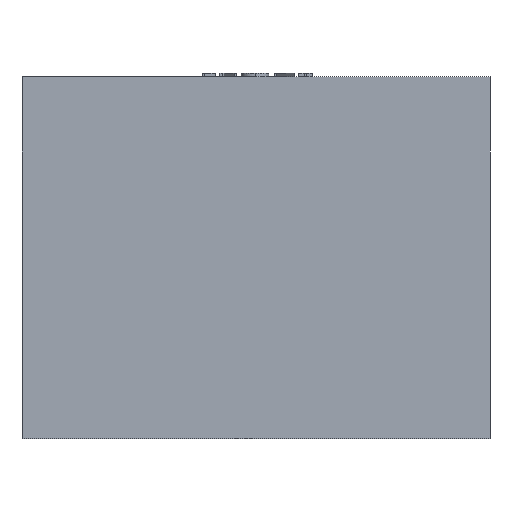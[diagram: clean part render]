
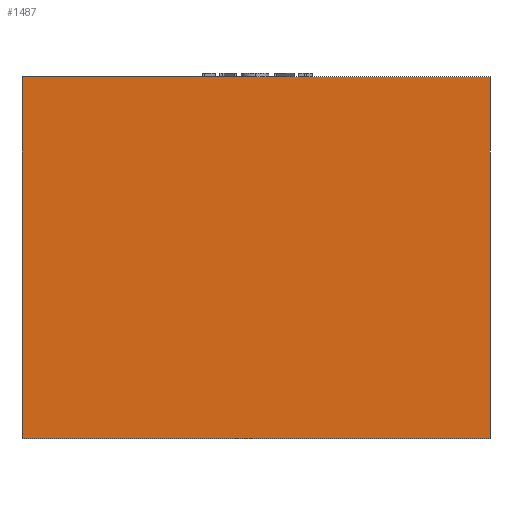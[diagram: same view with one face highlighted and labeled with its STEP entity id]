
A CAD part, front view. The second image highlights one B-rep face of the part: STEP entity #1487.
In plain terms, the highlighted planar face has unit normal (0, -1, 0).
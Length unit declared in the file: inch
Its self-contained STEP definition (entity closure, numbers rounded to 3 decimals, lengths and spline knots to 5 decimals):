
#1299 = VERTEX_POINT ( 'NONE', #5674 ) ;
#1300 = VERTEX_POINT ( 'NONE', #5673 ) ;
#1303 = EDGE_CURVE ( 'NONE', #1366, #1381, #5672, .T. ) ;
#1357 = EDGE_CURVE ( 'NONE', #1381, #1299, #5831, .T. ) ;
#1366 = VERTEX_POINT ( 'NONE', #5875 ) ;
#1381 = VERTEX_POINT ( 'NONE', #5902 ) ;
#1401 = EDGE_CURVE ( 'NONE', #1300, #1366, #5945, .T. ) ;
#1402 = EDGE_LOOP ( 'NONE', ( #1488, #1489, #1490, #1491 ) ) ;
#1412 = EDGE_CURVE ( 'NONE', #1299, #1300, #5976, .T. ) ;
#1487 = ADVANCED_FACE ( 'NONE', ( #6264 ), #6263, .F. ) ;
#1488 = ORIENTED_EDGE ( 'NONE', *, *, #1357, .F. ) ;
#1489 = ORIENTED_EDGE ( 'NONE', *, *, #1303, .F. ) ;
#1490 = ORIENTED_EDGE ( 'NONE', *, *, #1401, .F. ) ;
#1491 = ORIENTED_EDGE ( 'NONE', *, *, #1412, .F. ) ;
#5669 = DIRECTION ( 'NONE',  ( -1., 0., 0. ) ) ;
#5670 = VECTOR ( 'NONE', #5669, 39.37008 ) ;
#5671 = CARTESIAN_POINT ( 'NONE',  ( -6.61746, -1.3175, -5.11746 ) ) ;
#5672 = LINE ( 'NONE', #5671, #5670 ) ;
#5673 = CARTESIAN_POINT ( 'NONE',  ( 6.61746, -1.3175, 5.11746 ) ) ;
#5674 = CARTESIAN_POINT ( 'NONE',  ( -6.61746, -1.3175, 5.11746 ) ) ;
#5828 = DIRECTION ( 'NONE',  ( 0., 0., 1. ) ) ;
#5829 = VECTOR ( 'NONE', #5828, 39.37008 ) ;
#5830 = CARTESIAN_POINT ( 'NONE',  ( -6.61746, -1.3175, -5.11746 ) ) ;
#5831 = LINE ( 'NONE', #5830, #5829 ) ;
#5875 = CARTESIAN_POINT ( 'NONE',  ( 6.61746, -1.3175, -5.11746 ) ) ;
#5902 = CARTESIAN_POINT ( 'NONE',  ( -6.61746, -1.3175, -5.11746 ) ) ;
#5942 = DIRECTION ( 'NONE',  ( 0., 0., -1. ) ) ;
#5943 = VECTOR ( 'NONE', #5942, 39.37008 ) ;
#5944 = CARTESIAN_POINT ( 'NONE',  ( 6.61746, -1.3175, -5.11746 ) ) ;
#5945 = LINE ( 'NONE', #5944, #5943 ) ;
#5973 = DIRECTION ( 'NONE',  ( 1., 0., 0. ) ) ;
#5974 = VECTOR ( 'NONE', #5973, 39.37008 ) ;
#5975 = CARTESIAN_POINT ( 'NONE',  ( -6.61746, -1.3175, 5.11746 ) ) ;
#5976 = LINE ( 'NONE', #5975, #5974 ) ;
#6259 = DIRECTION ( 'NONE',  ( 0., 0., 1. ) ) ;
#6260 = DIRECTION ( 'NONE',  ( 0., 1., 0. ) ) ;
#6261 = CARTESIAN_POINT ( 'NONE',  ( -6.61746, -1.3175, -5.11746 ) ) ;
#6262 = AXIS2_PLACEMENT_3D ( 'NONE', #6261, #6260, #6259 ) ;
#6263 = PLANE ( 'NONE',  #6262 ) ;
#6264 = FACE_OUTER_BOUND ( 'NONE', #1402, .T. ) ;
